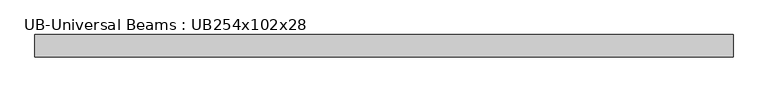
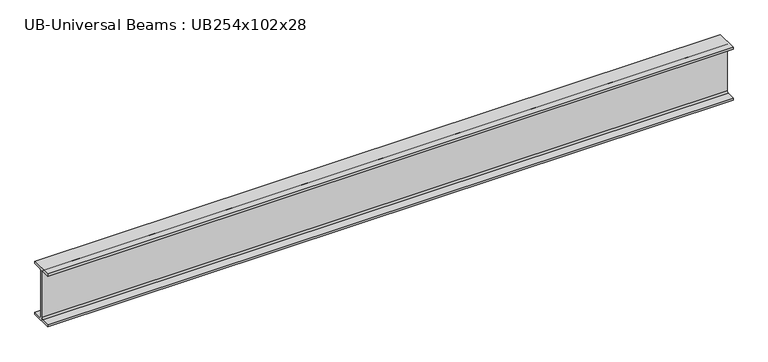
"""IFC4 building model written with IfcOpenShell, lengths in millimetres: beam geometry, UB-Universal Beams : UB254x102x28."""

from ifc_helpers import new_model, si_unit, point, frame, frame_2d, origin, place, context, project, spatial, polyline, circle_curve, trimmed, segment, composite_curve, outline, extrude, source, transform, mapped, element, save


def ub_universal_beams_ub254x102x28_7812688d(model_context):
    return source(origin(), model_context, "Body", "SweptSolid", [
        extrude(outline(composite_curve([segment(polyline([(51.1, -120.2), (51.1, -130.2), (-51.1, -130.2), (-51.1, -120.2), (-10.75, -120.2)]), True, "CONTINUOUS"), segment(trimmed(circle_curve(frame_2d((-10.75, -112.6)), 7.6), [point((-10.75, -120.2))], [point((-3.15, -112.6))], True, "CARTESIAN"), True, "CONTINUOUS"), segment(polyline([(-3.15, -112.6), (-3.15, 112.6)]), True, "CONTINUOUS"), segment(trimmed(circle_curve(frame_2d((-10.75, 112.6)), 7.6), [point((-3.15, 112.6))], [point((-10.75, 120.2))], True, "CARTESIAN"), True, "CONTINUOUS"), segment(polyline([(-10.75, 120.2), (-51.1, 120.2), (-51.1, 130.2), (51.1, 130.2), (51.1, 120.2), (10.75, 120.2)]), True, "CONTINUOUS"), segment(trimmed(circle_curve(frame_2d((10.75, 112.6)), 7.6), [point((10.75, 120.2))], [point((3.15, 112.6))], True, "CARTESIAN"), True, "CONTINUOUS"), segment(polyline([(3.15, 112.6), (3.15, -112.6)]), True, "CONTINUOUS"), segment(trimmed(circle_curve(frame_2d((10.75, -112.6)), 7.6), [point((3.15, -112.6))], [point((10.75, -120.2))], True, "CARTESIAN"), True, "CONTINUOUS"), segment(polyline([(10.75, -120.2), (51.1, -120.2)]), True, "CONTINUOUS")], self_intersect=False)), frame((-1599.05, 0.0, 0.0), z_axis=(1.0, 0.0, 0.0), x_axis=(0.0, 1.0, 0.0)), (0.0, 0.0, 1.0), 3202.7),
    ])


if __name__ == "__main__":
    model = new_model("IFC4")
    model_context = context("Model", 3, world=origin())
    ifc_project = project(units=[si_unit("LENGTHUNIT", "METRE", prefix="MILLI")], contexts=[model_context])
    site = spatial("IfcSite", under=ifc_project)
    building = spatial("IfcBuilding", under=site)
    placement = place(None, origin())
    ub_universal_beams_ub254x102x28_shape = ub_universal_beams_ub254x102x28_7812688d(model_context)
    element("IfcBeam", 1, ObjectType="UB-Universal Beams : UB254x102x28", at=placement, inside=building, context=model_context, shape_type="MappedRepresentation", body=[
        mapped(ub_universal_beams_ub254x102x28_shape, transform((0.0, 0.0, 0.0), x_axis=(1.0, 0.0, 0.0), y_axis=(0.0, 1.0, 0.0), z_axis=(0.0, 0.0, 1.0))),
    ])
    save(model, "model.ifc")
